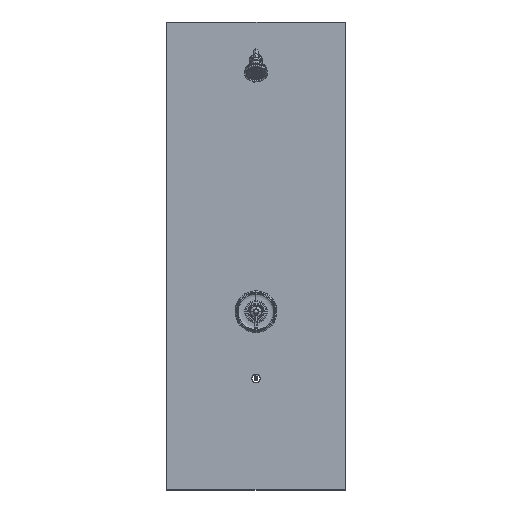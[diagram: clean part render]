
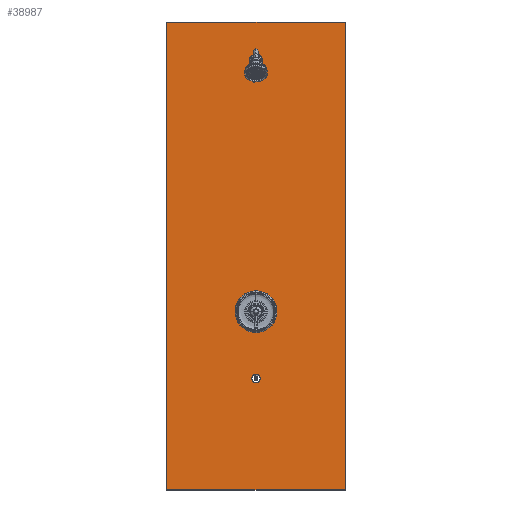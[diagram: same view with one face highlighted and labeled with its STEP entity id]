
A CAD part, top view. The second image highlights one B-rep face of the part: STEP entity #38987.
In plain terms, the highlighted planar face has unit normal (0, 0, 1).
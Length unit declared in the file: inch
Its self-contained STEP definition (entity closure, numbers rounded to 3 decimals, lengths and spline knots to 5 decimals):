
#1203 = VERTEX_POINT ( 'NONE', #1521 ) ;
#1320 = EDGE_CURVE ( 'NONE', #6658, #39704, #40068, .T. ) ;
#1521 = CARTESIAN_POINT ( 'NONE',  ( -16., 52., 0. ) ) ;
#1803 = VERTEX_POINT ( 'NONE', #35694 ) ;
#2261 = AXIS2_PLACEMENT_3D ( 'NONE', #50193, #21545, #38042 ) ;
#3134 = LINE ( 'NONE', #15547, #25829 ) ;
#3473 = FACE_BOUND ( 'NONE', #23816, .T. ) ;
#3635 = DIRECTION ( 'NONE',  ( 0., 0., 1. ) ) ;
#3957 = DIRECTION ( 'NONE',  ( 1., 0., 0. ) ) ;
#4619 = EDGE_CURVE ( 'NONE', #34577, #40303, #11612, .T. ) ;
#5115 = VECTOR ( 'NONE', #52221, 39.37008 ) ;
#6380 = EDGE_LOOP ( 'NONE', ( #42098, #50082, #18546, #35321 ) ) ;
#6658 = VERTEX_POINT ( 'NONE', #30650 ) ;
#7352 = AXIS2_PLACEMENT_3D ( 'NONE', #31841, #7513, #24255 ) ;
#7513 = DIRECTION ( 'NONE',  ( 0., 0., 1. ) ) ;
#8369 = CARTESIAN_POINT ( 'NONE',  ( 0., 0., 0. ) ) ;
#9031 = AXIS2_PLACEMENT_3D ( 'NONE', #50880, #13855, #46821 ) ;
#9062 = CARTESIAN_POINT ( 'NONE',  ( -16., -32., 0. ) ) ;
#11046 = FACE_BOUND ( 'NONE', #22490, .T. ) ;
#11264 = EDGE_CURVE ( 'NONE', #1803, #15624, #42330, .T. ) ;
#11612 = CIRCLE ( 'NONE', #9031, 0.75 ) ;
#13855 = DIRECTION ( 'NONE',  ( 0., 0., 1. ) ) ;
#14254 = DIRECTION ( 'NONE',  ( 1., 0., 0. ) ) ;
#15171 = CIRCLE ( 'NONE', #2261, 0.75 ) ;
#15547 = CARTESIAN_POINT ( 'NONE',  ( -16., 52., 0. ) ) ;
#15624 = VERTEX_POINT ( 'NONE', #20692 ) ;
#16429 = EDGE_CURVE ( 'NONE', #52902, #45657, #44739, .T. ) ;
#16653 = DIRECTION ( 'NONE',  ( 0., 0., 1. ) ) ;
#16763 = VECTOR ( 'NONE', #17702, 39.37008 ) ;
#17040 = ORIENTED_EDGE ( 'NONE', *, *, #16429, .F. ) ;
#17702 = DIRECTION ( 'NONE',  ( 1., 0., 0. ) ) ;
#18546 = ORIENTED_EDGE ( 'NONE', *, *, #1320, .T. ) ;
#18722 = CARTESIAN_POINT ( 'NONE',  ( 16., 52., 0. ) ) ;
#18857 = AXIS2_PLACEMENT_3D ( 'NONE', #48740, #3635, #32521 ) ;
#18899 = ORIENTED_EDGE ( 'NONE', *, *, #40796, .F. ) ;
#19046 = EDGE_CURVE ( 'NONE', #40303, #34577, #15171, .T. ) ;
#20692 = CARTESIAN_POINT ( 'NONE',  ( 0.75, 45., 0. ) ) ;
#21545 = DIRECTION ( 'NONE',  ( 0., 0., 1. ) ) ;
#22398 = CIRCLE ( 'NONE', #52611, 1.875 ) ;
#22490 = EDGE_LOOP ( 'NONE', ( #29267, #44676 ) ) ;
#22643 = DIRECTION ( 'NONE',  ( 0., 0., 1. ) ) ;
#22782 = CARTESIAN_POINT ( 'NONE',  ( -16., 52., 0. ) ) ;
#23464 = FACE_OUTER_BOUND ( 'NONE', #6380, .T. ) ;
#23816 = EDGE_LOOP ( 'NONE', ( #17040, #46923 ) ) ;
#24216 = CARTESIAN_POINT ( 'NONE',  ( 0., 45., 0. ) ) ;
#24255 = DIRECTION ( 'NONE',  ( 1., 0., 0. ) ) ;
#24851 = DIRECTION ( 'NONE',  ( 0., 0., 1. ) ) ;
#25569 = CARTESIAN_POINT ( 'NONE',  ( -0.75, -12., 0. ) ) ;
#25829 = VECTOR ( 'NONE', #32548, 39.37008 ) ;
#29267 = ORIENTED_EDGE ( 'NONE', *, *, #19046, .F. ) ;
#30650 = CARTESIAN_POINT ( 'NONE',  ( 16., -32., 0. ) ) ;
#31421 = CARTESIAN_POINT ( 'NONE',  ( -16., -32., 0. ) ) ;
#31841 = CARTESIAN_POINT ( 'NONE',  ( -16., -32., 0. ) ) ;
#32521 = DIRECTION ( 'NONE',  ( 1., 0., 0. ) ) ;
#32548 = DIRECTION ( 'NONE',  ( -1., 0., 0. ) ) ;
#34141 = ORIENTED_EDGE ( 'NONE', *, *, #11264, .F. ) ;
#34577 = VERTEX_POINT ( 'NONE', #25569 ) ;
#35321 = ORIENTED_EDGE ( 'NONE', *, *, #36495, .T. ) ;
#35694 = CARTESIAN_POINT ( 'NONE',  ( -0.75, 45., 0. ) ) ;
#36449 = EDGE_LOOP ( 'NONE', ( #18899, #34141 ) ) ;
#36495 = EDGE_CURVE ( 'NONE', #39704, #1203, #3134, .T. ) ;
#38042 = DIRECTION ( 'NONE',  ( 1., 0., 0. ) ) ;
#38230 = VERTEX_POINT ( 'NONE', #31421 ) ;
#38987 = ADVANCED_FACE ( 'NONE', ( #11046, #44525, #3473, #23464 ), #53147, .T. ) ;
#39392 = AXIS2_PLACEMENT_3D ( 'NONE', #24216, #16653, #3957 ) ;
#39603 = CARTESIAN_POINT ( 'NONE',  ( 1.875, 0., 0. ) ) ;
#39704 = VERTEX_POINT ( 'NONE', #51058 ) ;
#40068 = LINE ( 'NONE', #18722, #5115 ) ;
#40303 = VERTEX_POINT ( 'NONE', #52385 ) ;
#40796 = EDGE_CURVE ( 'NONE', #15624, #1803, #48882, .T. ) ;
#41338 = DIRECTION ( 'NONE',  ( 1., 0., 0. ) ) ;
#42098 = ORIENTED_EDGE ( 'NONE', *, *, #51145, .T. ) ;
#42330 = CIRCLE ( 'NONE', #43204, 0.75 ) ;
#42476 = EDGE_CURVE ( 'NONE', #38230, #6658, #53088, .T. ) ;
#42801 = LINE ( 'NONE', #22782, #53373 ) ;
#43189 = CARTESIAN_POINT ( 'NONE',  ( 0., 45., 0. ) ) ;
#43204 = AXIS2_PLACEMENT_3D ( 'NONE', #43189, #22643, #14254 ) ;
#43385 = CARTESIAN_POINT ( 'NONE',  ( -1.875, 0., 0. ) ) ;
#44525 = FACE_BOUND ( 'NONE', #36449, .T. ) ;
#44676 = ORIENTED_EDGE ( 'NONE', *, *, #4619, .F. ) ;
#44739 = CIRCLE ( 'NONE', #18857, 1.875 ) ;
#45657 = VERTEX_POINT ( 'NONE', #43385 ) ;
#46821 = DIRECTION ( 'NONE',  ( 1., 0., 0. ) ) ;
#46923 = ORIENTED_EDGE ( 'NONE', *, *, #53182, .F. ) ;
#48740 = CARTESIAN_POINT ( 'NONE',  ( 0., 0., 0. ) ) ;
#48882 = CIRCLE ( 'NONE', #39392, 0.75 ) ;
#50082 = ORIENTED_EDGE ( 'NONE', *, *, #42476, .T. ) ;
#50193 = CARTESIAN_POINT ( 'NONE',  ( 0., -12., 0. ) ) ;
#50880 = CARTESIAN_POINT ( 'NONE',  ( 0., -12., 0. ) ) ;
#51058 = CARTESIAN_POINT ( 'NONE',  ( 16., 52., 0. ) ) ;
#51145 = EDGE_CURVE ( 'NONE', #1203, #38230, #42801, .T. ) ;
#51974 = DIRECTION ( 'NONE',  ( 0., -1., 0. ) ) ;
#52221 = DIRECTION ( 'NONE',  ( 0., 1., 0. ) ) ;
#52385 = CARTESIAN_POINT ( 'NONE',  ( 0.75, -12., 0. ) ) ;
#52611 = AXIS2_PLACEMENT_3D ( 'NONE', #8369, #24851, #41338 ) ;
#52902 = VERTEX_POINT ( 'NONE', #39603 ) ;
#53088 = LINE ( 'NONE', #9062, #16763 ) ;
#53147 = PLANE ( 'NONE',  #7352 ) ;
#53182 = EDGE_CURVE ( 'NONE', #45657, #52902, #22398, .T. ) ;
#53373 = VECTOR ( 'NONE', #51974, 39.37008 ) ;
